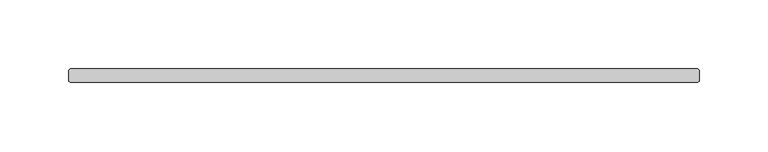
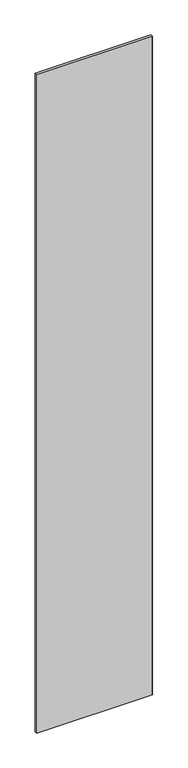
"""IFC4 building model written with IfcOpenShell, lengths in millimetres: plate geometry, Panel Flex Glassline : Panel Flex Glassline."""

from ifc_helpers import new_model, si_unit, origin, origin_with_axes, place, context, project, spatial, polyline, outline, extrude, source, transform, mapped, element, save


def plate_20f3e559(model_context):
    return source(origin(), model_context, "Body", "SweptSolid", [
        extrude(outline(polyline([(228.5, 12.0), (229.5, 11.0), (229.5, 3.0), (228.5, 2.0), (-228.5, 2.0), (-229.5, 3.0), (-229.5, 11.0), (-228.5, 12.0), (228.5, 12.0)])), origin_with_axes(), (0.0, 0.0, 1.0), 2735.0),
    ])


if __name__ == "__main__":
    model = new_model("IFC4")
    model_context = context("Model", 3, world=origin())
    ifc_project = project(units=[si_unit("LENGTHUNIT", "METRE", prefix="MILLI")], contexts=[model_context])
    site = spatial("IfcSite", under=ifc_project)
    building = spatial("IfcBuilding", under=site)
    placement = place(None, origin())
    plate_shape = plate_20f3e559(model_context)
    element("IfcPlate", 1, ObjectType="Panel Flex Glassline : Panel Flex Glassline", at=placement, inside=building, context=model_context, shape_type="MappedRepresentation", body=[
        mapped(plate_shape, transform((0.0, 0.0, 0.0), x_axis=(1.0, 0.0, 0.0), y_axis=(0.0, 1.0, 0.0), z_axis=(0.0, 0.0, 1.0))),
    ])
    save(model, "model.ifc")
